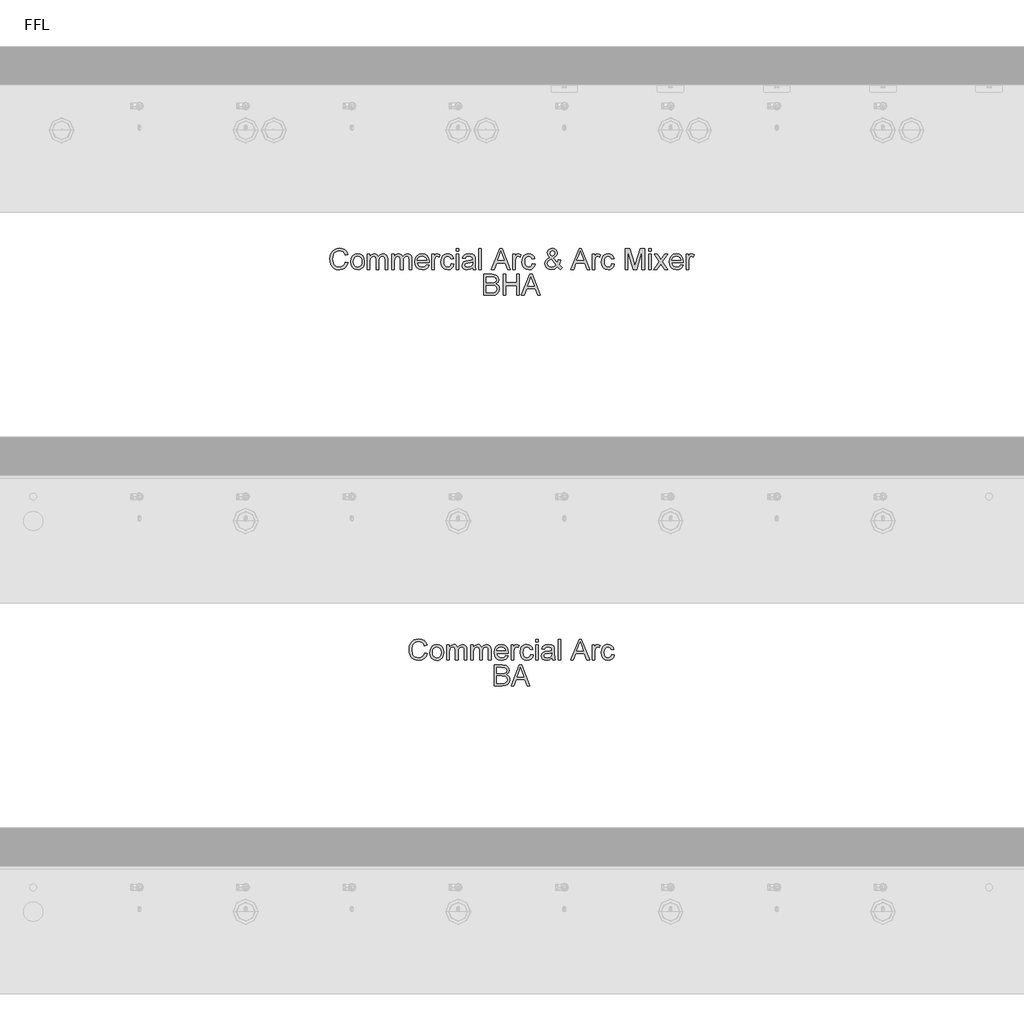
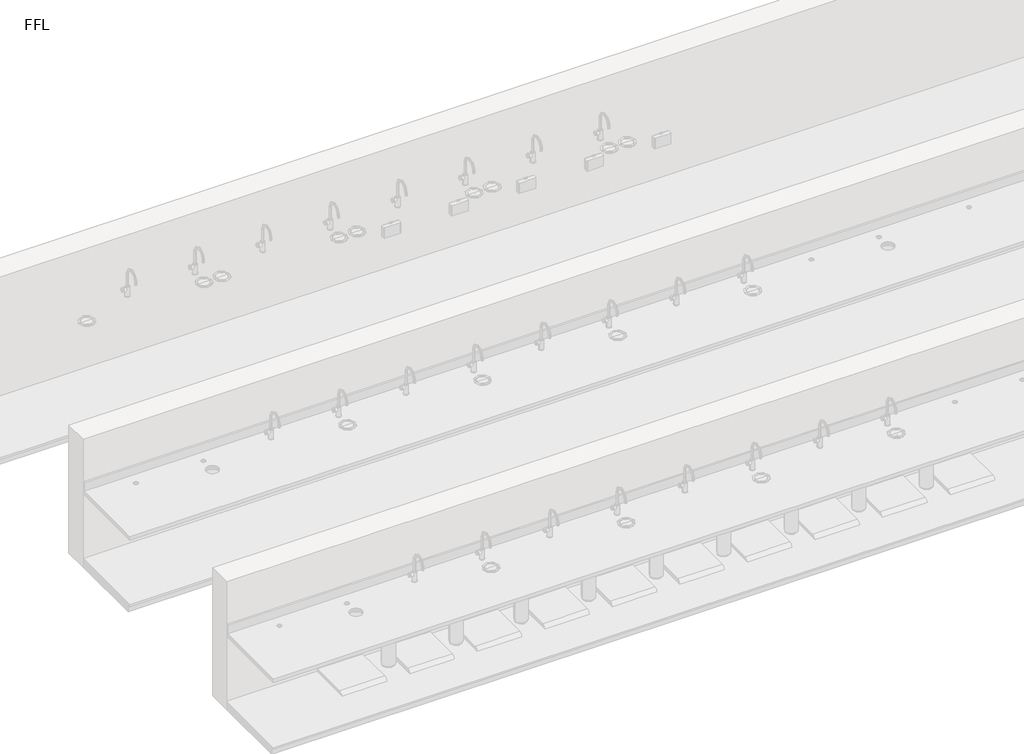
# One storey, part 8 of 10: 2 proxies.
"""IFC4 building model written with IfcOpenShell, lengths in millimetres."""

from ifc_helpers import new_model, si_unit, origin, origin_with_axes, place, context, project, spatial, polyline, outline, extrude, element, save

model = new_model("IFC4")

# Units and contexts
model_context = context("Model", 3, world=origin())
ifc_project = project(units=[si_unit("LENGTHUNIT", "METRE", prefix="MILLI")], contexts=[model_context])

# Site, building, storey
site = spatial("IfcSite", under=ifc_project)
building = spatial("IfcBuilding", under=site)
storey = spatial("IfcBuildingStorey", under=building, Name="FFL", Elevation=0.0)

# Proxies
placement = place(None, origin())
element("IfcBuildingElementProxy", 1, Name="150mm Arial", ObjectType="150mm Arial", at=placement, inside=storey, context=model_context, shape_type="SweptSolid", body=[
    extrude(outline(polyline([(-3514.7352929, 3836.3018309), (-3496.2737544, 3831.5422155), (-3504.7923842, 3810.0292948), (-3518.1607736, 3794.3126482), (-3535.7208698, 3784.698766), (-3556.8146198, 3781.4941386), (-3578.2283818, 3783.9190184), (-3595.2340909, 3791.1936578), (-3608.2689467, 3803.065653), (-3617.7701486, 3819.2826001), (-3623.5709299, 3838.3481049), (-3625.5045236, 3858.7657732), (-3623.318526, 3880.3012299), (-3616.7605333, 3898.8979847), (-3606.1730934, 3913.9655929), (-3591.8987544, 3924.9136097), (-3574.9696679, 3931.5797756), (-3556.4179852, 3933.8018309), (-3536.1760982, 3930.9262299), (-3519.4408217, 3922.299427), (-3506.7349924, 3908.4532732), (-3498.5814467, 3889.9196193), (-3517.0429852, 3885.5205809), (-3523.4432256, 3898.9836217), (-3532.1872159, 3908.2188982), (-3543.3831294, 3913.5599439), (-3557.139139, 3915.3402924), (-3572.9955092, 3913.3661338), (-3586.0213506, 3907.4436578), (-3595.9056655, 3898.1948597), (-3602.3374563, 3886.2417347), (-3607.0429852, 3858.8018309), (-3601.4720717, 3826.9989463), (-3594.3506775, 3815.1224439), (-3584.1283217, 3806.6804367), (-3571.8732135, 3801.6368669), (-3558.6535621, 3799.955677), (-3543.2434059, 3802.2453405), (-3530.4023602, 3809.1143309), (-3520.7073482, 3820.4905328), (-3514.7352929, 3836.3018309)])), origin_with_axes(), (0.0, 0.0, 1.0), 5.0),
    extrude(outline(polyline([(-3477.8122159, 3838.0326001), (-3473.8188265, 3864.1834415), (-3461.8386583, 3882.5638501), (-3447.0369756, 3891.5692588), (-3429.3146198, 3894.5710617), (-3409.9200885, 3890.9157131), (-3394.4288025, 3879.9496674), (-3384.2740549, 3862.5383092), (-3380.889139, 3839.5470232), (-3382.3855333, 3820.8961818), (-3386.8747159, 3806.6984655), (-3394.225978, 3796.0659535), (-3404.3086102, 3788.1107251), (-3416.2842712, 3783.1482852), (-3429.3146198, 3781.4941386), (-3448.943526, 3785.1359655), (-3464.4167833, 3796.0614463), (-3474.4633578, 3813.8378886), (-3477.8122159, 3838.0326001)]), holes=[polyline([(-3459.3506775, 3838.0686578), (-3457.2142592, 3821.3604246), (-3450.8050044, 3809.456879), (-3441.1595717, 3802.3309775), (-3429.3146198, 3799.955677), (-3417.5237544, 3802.3444992), (-3407.8963506, 3809.5109655), (-3401.4870958, 3821.5722636), (-3399.3506775, 3838.6455809), (-3401.5006174, 3854.8670352), (-3407.9504371, 3866.6083213), (-3417.5913626, 3873.7342227), (-3429.3146198, 3876.1095232), (-3441.1595717, 3873.7432371), (-3450.8050044, 3866.644379), (-3457.2142592, 3854.7678766), (-3459.3506775, 3838.0686578)])]), origin_with_axes(), (0.0, 0.0, 1.0), 5.0),
    extrude(outline(polyline([(-3360.1199083, 3783.8018309), (-3360.1199083, 3892.2633693), (-3341.6583698, 3892.2633693), (-3341.6583698, 3874.4148117), (-3328.9660621, 3889.0362059), (-3310.9011583, 3894.5710617), (-3300.6337304, 3893.1603044), (-3292.4035621, 3888.9280328), (-3282.2352929, 3873.1167347), (-3267.8302448, 3889.2074799), (-3249.639139, 3894.5710617), (-3235.7614347, 3892.3399919), (-3225.498514, 3885.6467828), (-3219.1568674, 3874.3111458), (-3217.0429852, 3858.1527924), (-3217.0429852, 3783.8018309), (-3235.5045236, 3783.8018309), (-3235.5045236, 3850.2201001), (-3237.217264, 3865.6347636), (-3243.4191871, 3873.2249078), (-3253.9660621, 3876.1095232), (-3263.9675645, 3874.2615665), (-3272.1211102, 3868.7176963), (-3277.5432857, 3859.0993068), (-3279.3506775, 3845.0277924), (-3279.3506775, 3783.8018309), (-3297.8122159, 3783.8018309), (-3297.8122159, 3852.2753886), (-3302.0850525, 3870.160004), (-3307.7235741, 3874.6221434), (-3316.0934659, 3876.1095232), (-3329.7593313, 3872.143177), (-3338.8458698, 3860.5326001), (-3341.6583698, 3838.5013501), (-3341.6583698, 3783.8018309), (-3360.1199083, 3783.8018309)])), origin_with_axes(), (0.0, 0.0, 1.0), 5.0),
    extrude(outline(polyline([(-3189.3506775, 3783.8018309), (-3189.3506775, 3892.2633693), (-3170.889139, 3892.2633693), (-3170.889139, 3874.4148117), (-3158.1968313, 3889.0362059), (-3140.1319275, 3894.5710617), (-3129.8644996, 3893.1603044), (-3121.6343313, 3888.9280328), (-3111.4660621, 3873.1167347), (-3097.061014, 3889.2074799), (-3078.8699083, 3894.5710617), (-3064.9922039, 3892.3399919), (-3054.7292833, 3885.6467828), (-3048.3876366, 3874.3111458), (-3046.2737544, 3858.1527924), (-3046.2737544, 3783.8018309), (-3064.7352929, 3783.8018309), (-3064.7352929, 3850.2201001), (-3066.4480333, 3865.6347636), (-3072.6499563, 3873.2249078), (-3083.1968313, 3876.1095232), (-3093.1983337, 3874.2615665), (-3101.3518794, 3868.7176963), (-3106.7740549, 3859.0993068), (-3108.5814467, 3845.0277924), (-3108.5814467, 3783.8018309), (-3127.0429852, 3783.8018309), (-3127.0429852, 3852.2753886), (-3131.3158217, 3870.160004), (-3136.9543434, 3874.6221434), (-3145.3242352, 3876.1095232), (-3158.9901006, 3872.143177), (-3168.076639, 3860.5326001), (-3170.889139, 3838.5013501), (-3170.889139, 3783.8018309), (-3189.3506775, 3783.8018309)])), origin_with_axes(), (0.0, 0.0, 1.0), 5.0),
    extrude(outline(polyline([(-2942.6439467, 3816.1095232), (-2924.5429852, 3813.8018309), (-2931.0649203, 3800.1630088), (-2941.4720717, 3789.9676963), (-2955.5300645, 3783.612528), (-2973.0045236, 3781.4941386), (-2994.6661823, 3785.1494871), (-3011.3338506, 3796.1155328), (-3021.9618554, 3813.6801362), (-3025.5045236, 3837.1311578), (-3021.9257977, 3861.3709415), (-3011.1896198, 3879.4989463), (-2994.7473121, 3890.8030328), (-2974.0501967, 3894.5710617), (-2953.9976126, 3890.8120472), (-2937.9744756, 3879.535004), (-2927.4681655, 3861.4430568), (-2923.9660621, 3837.2393309), (-2924.0742352, 3832.2633693), (-3007.0429852, 3832.2633693), (-3003.8473722, 3818.4442588), (-2996.4239948, 3808.285004), (-2985.710353, 3802.0380088), (-2972.6439467, 3799.955677), (-2954.5429852, 3803.8138501), (-2942.6439467, 3816.1095232)]), holes=[polyline([(-3007.0429852, 3850.7249078), (-2942.4276006, 3850.7249078), (-2944.9245958, 3860.4785136), (-2949.8194275, 3867.455677), (-2960.5826486, 3873.9460617), (-2974.1223121, 3876.1095232), (-2986.5667232, 3874.3832612), (-2996.8566871, 3869.2044751), (-3004.0096318, 3861.1320592), (-3007.0429852, 3850.7249078)])]), origin_with_axes(), (0.0, 0.0, 1.0), 5.0),
    extrude(outline(polyline([(-2905.5045236, 3783.8018309), (-2905.5045236, 3892.2633693), (-2889.3506775, 3892.2633693), (-2889.3506775, 3876.2176963), (-2877.8843313, 3891.0013501), (-2866.3458698, 3894.5710617), (-2847.8122159, 3888.8739463), (-2853.9780813, 3872.3234655), (-2866.9588506, 3876.1095232), (-2877.3975525, 3872.4676963), (-2884.0501967, 3862.3715424), (-2887.0429852, 3840.8090424), (-2887.0429852, 3783.8018309), (-2905.5045236, 3783.8018309)])), origin_with_axes(), (0.0, 0.0, 1.0), 5.0),
    extrude(outline(polyline([(-2767.0429852, 3823.0326001), (-2748.5814467, 3820.7249078), (-2753.7286823, 3804.3051362), (-2763.4011583, 3791.8967828), (-2776.6884179, 3784.0947996), (-2792.6800044, 3781.4941386), (-2812.3179251, 3785.1224439), (-2827.6739948, 3796.0073597), (-2837.585353, 3813.6711217), (-2840.889139, 3837.6359655), (-2835.2461102, 3868.3030328), (-2828.1247159, 3879.8009294), (-2818.0465909, 3888.0085617), (-2805.9898001, 3892.9304367), (-2792.9324083, 3894.5710617), (-2777.3329491, 3892.3174559), (-2764.8614948, 3885.5566386), (-2755.9146799, 3874.6491867), (-2750.889139, 3859.955677), (-2769.3506775, 3857.6479847), (-2777.9143794, 3871.4761097), (-2792.7881775, 3876.1095232), (-2804.7187664, 3873.8288742), (-2814.1884179, 3866.986927), (-2820.3678049, 3855.2140905), (-2822.4276006, 3838.1407732), (-2820.412877, 3820.8375881), (-2814.3687063, 3809.0241867), (-2805.0703289, 3802.2228044), (-2793.2929852, 3799.955677), (-2783.7331895, 3801.3709415), (-2775.8951486, 3805.6167347), (-2770.193526, 3812.8012299), (-2767.0429852, 3823.0326001)])), origin_with_axes(), (0.0, 0.0, 1.0), 5.0),
    extrude(outline(polyline([(-2732.4276006, 3913.0326001), (-2732.4276006, 3931.4941386), (-2713.9660621, 3931.4941386), (-2713.9660621, 3913.0326001), (-2732.4276006, 3913.0326001)])), origin_with_axes(), (0.0, 0.0, 1.0), 5.0),
    extrude(outline(polyline([(-2732.4276006, 3783.8018309), (-2732.4276006, 3892.2633693), (-2713.9660621, 3892.2633693), (-2713.9660621, 3783.8018309), (-2732.4276006, 3783.8018309)])), origin_with_axes(), (0.0, 0.0, 1.0), 5.0),
    extrude(outline(polyline([(-2617.0429852, 3797.6479847), (-2634.9456294, 3785.1359655), (-2654.7232736, 3781.4941386), (-2670.1514587, 3783.6846434), (-2681.5321679, 3790.2561578), (-2688.5498962, 3800.2351242), (-2690.889139, 3812.6479847), (-2687.3554852, 3827.2513501), (-2678.0706294, 3837.8523117), (-2665.1439467, 3843.910004), (-2649.170389, 3846.6864463), (-2617.1511583, 3853.0326001), (-2617.0429852, 3857.143177), (-2618.3140188, 3865.3823597), (-2622.1271198, 3870.7729847), (-2630.654764, 3874.7753886), (-2642.5357736, 3876.1095232), (-2661.2136583, 3872.5578405), (-2670.1199083, 3859.955677), (-2688.5814467, 3862.2633693), (-2680.5946679, 3880.2922155), (-2664.5129371, 3890.8571193), (-2640.1559659, 3894.5710617), (-2617.7821679, 3891.2898117), (-2605.1439467, 3883.050629), (-2599.482889, 3870.5205809), (-2598.5814467, 3854.3667347), (-2598.5814467, 3831.3979847), (-2597.6439467, 3799.3246674), (-2593.9660621, 3783.8018309), (-2612.4276006, 3783.8018309), (-2617.0429852, 3797.6479847)]), holes=[polyline([(-2617.0429852, 3834.5710617), (-2646.826639, 3828.910004), (-2662.7100525, 3825.9172155), (-2669.9035621, 3821.049427), (-2672.4276006, 3813.9460617), (-2666.9288025, 3803.9580809), (-2650.7929852, 3799.955677), (-2632.1151006, 3804.3727443), (-2620.0718313, 3815.0638501), (-2617.1511583, 3829.3426963), (-2617.0429852, 3834.5710617)])]), origin_with_axes(), (0.0, 0.0, 1.0), 5.0),
    extrude(outline(polyline([(-2573.1968313, 3783.8018309), (-2573.1968313, 3931.4941386), (-2554.7352929, 3931.4941386), (-2554.7352929, 3783.8018309), (-2573.1968313, 3783.8018309)])), origin_with_axes(), (0.0, 0.0, 1.0), 5.0),
    extrude(outline(polyline([(-2484.2425044, 3783.8018309), (-2425.2881775, 3931.4941386), (-2409.5670236, 3931.4941386), (-2350.6126967, 3783.8018309), (-2370.1199083, 3783.8018309), (-2387.0309659, 3829.955677), (-2447.8602929, 3829.955677), (-2464.7352929, 3783.8018309), (-2484.2425044, 3783.8018309)]), holes=[polyline([(-2441.0814467, 3848.4172155), (-2393.7737544, 3848.4172155), (-2407.0790429, 3884.7273117), (-2417.4276006, 3913.0326001), (-2426.6223121, 3887.9003886), (-2441.0814467, 3848.4172155)])]), origin_with_axes(), (0.0, 0.0, 1.0), 5.0),
    extrude(outline(polyline([(-2333.1968313, 3783.8018309), (-2333.1968313, 3892.2633693), (-2317.0429852, 3892.2633693), (-2317.0429852, 3876.2176963), (-2305.576639, 3891.0013501), (-2294.0381775, 3894.5710617), (-2275.5045236, 3888.8739463), (-2281.670389, 3872.3234655), (-2294.6511583, 3876.1095232), (-2305.0898602, 3872.4676963), (-2311.7425044, 3862.3715424), (-2314.7352929, 3840.8090424), (-2314.7352929, 3783.8018309), (-2333.1968313, 3783.8018309)])), origin_with_axes(), (0.0, 0.0, 1.0), 5.0),
    extrude(outline(polyline([(-2194.7352929, 3823.0326001), (-2176.2737544, 3820.7249078), (-2181.42099, 3804.3051362), (-2191.0934659, 3791.8967828), (-2204.3807256, 3784.0947996), (-2220.3723121, 3781.4941386), (-2240.0102328, 3785.1224439), (-2255.3663025, 3796.0073597), (-2265.2776607, 3813.6711217), (-2268.5814467, 3837.6359655), (-2262.9384179, 3868.3030328), (-2255.8170236, 3879.8009294), (-2245.7388986, 3888.0085617), (-2233.6821078, 3892.9304367), (-2220.6247159, 3894.5710617), (-2205.0252568, 3892.3174559), (-2192.5538025, 3885.5566386), (-2183.6069876, 3874.6491867), (-2178.5814467, 3859.955677), (-2197.0429852, 3857.6479847), (-2205.6066871, 3871.4761097), (-2220.4804852, 3876.1095232), (-2232.4110741, 3873.8288742), (-2241.8807256, 3866.986927), (-2248.0601126, 3855.2140905), (-2250.1199083, 3838.1407732), (-2248.1051847, 3820.8375881), (-2242.061014, 3809.0241867), (-2232.7626366, 3802.2228044), (-2220.9852929, 3799.955677), (-2211.4254972, 3801.3709415), (-2203.5874563, 3805.6167347), (-2197.8858337, 3812.8012299), (-2194.7352929, 3823.0326001)])), origin_with_axes(), (0.0, 0.0, 1.0), 5.0),
    extrude(outline(polyline([(-2017.7280813, 3802.0470232), (-2037.3074083, 3786.6323597), (-2060.2040429, 3781.4941386), (-2080.576639, 3785.2982251), (-2096.2617352, 3796.7104847), (-2104.3476727, 3809.8444992), (-2107.0429852, 3824.4388501), (-2104.8750164, 3837.3745472), (-2098.3711102, 3848.9941386), (-2087.5583097, 3859.2886097), (-2072.4636583, 3868.2489463), (-2085.3542833, 3886.9268309), (-2088.5814467, 3900.7729847), (-2086.0393794, 3913.2399318), (-2078.4131775, 3923.9580809), (-2066.9378169, 3931.3408934), (-2052.8482736, 3933.8018309), (-2039.4438265, 3931.4490665), (-2028.7256775, 3924.3907732), (-2021.6944275, 3914.0332011), (-2019.3506775, 3901.7826001), (-2021.0859539, 3891.4971434), (-2026.2917833, 3881.986927), (-2047.1151006, 3865.2922155), (-2020.3963506, 3832.0109655), (-2012.4276006, 3852.455677), (-1993.9660621, 3848.4532732), (-2007.0189467, 3818.0566386), (-1984.7352929, 3795.7008693), (-1998.5814467, 3781.4941386), (-2017.7280813, 3802.0470232)]), holes=[polyline([(-2056.4540429, 3876.9388501), (-2041.2737544, 3888.3871674), (-2037.8122159, 3899.2585617), (-2042.373514, 3910.8511097), (-2053.7857736, 3915.3402924), (-2065.4504371, 3910.8871674), (-2070.1199083, 3900.0157732), (-2068.5333698, 3893.2549559), (-2063.7376967, 3885.736927), (-2056.4540429, 3876.9388501)]), polyline([(-2030.0958698, 3815.3523117), (-2063.0526006, 3856.4941386), (-2083.3350525, 3841.0253886), (-2088.5814467, 3826.8907732), (-2086.7875765, 3818.1828405), (-2081.4059659, 3809.1503886), (-2072.7340909, 3802.2543549), (-2061.0694275, 3799.955677), (-2044.1042833, 3804.2465424), (-2030.0958698, 3815.3523117)])]), origin_with_axes(), (0.0, 0.0, 1.0), 5.0),
    extrude(outline(polyline([(-1923.4732736, 3783.8018309), (-1864.5189467, 3931.4941386), (-1848.7977929, 3931.4941386), (-1789.8434659, 3783.8018309), (-1809.3506775, 3783.8018309), (-1826.2617352, 3829.955677), (-1887.0910621, 3829.955677), (-1903.9660621, 3783.8018309), (-1923.4732736, 3783.8018309)]), holes=[polyline([(-1880.3122159, 3848.4172155), (-1833.0045236, 3848.4172155), (-1846.3098121, 3884.7273117), (-1856.6583698, 3913.0326001), (-1865.8530813, 3887.9003886), (-1880.3122159, 3848.4172155)])]), origin_with_axes(), (0.0, 0.0, 1.0), 5.0),
    extrude(outline(polyline([(-1772.4276006, 3783.8018309), (-1772.4276006, 3892.2633693), (-1756.2737544, 3892.2633693), (-1756.2737544, 3876.2176963), (-1744.8074083, 3891.0013501), (-1733.2689467, 3894.5710617), (-1714.7352929, 3888.8739463), (-1720.9011583, 3872.3234655), (-1733.8819275, 3876.1095232), (-1744.3206294, 3872.4676963), (-1750.9732736, 3862.3715424), (-1753.9660621, 3840.8090424), (-1753.9660621, 3783.8018309), (-1772.4276006, 3783.8018309)])), origin_with_axes(), (0.0, 0.0, 1.0), 5.0),
    extrude(outline(polyline([(-1633.9660621, 3823.0326001), (-1615.5045236, 3820.7249078), (-1620.6517592, 3804.3051362), (-1630.3242352, 3791.8967828), (-1643.6114948, 3784.0947996), (-1659.6030813, 3781.4941386), (-1679.241002, 3785.1224439), (-1694.5970717, 3796.0073597), (-1704.5084299, 3813.6711217), (-1707.8122159, 3837.6359655), (-1702.1691871, 3868.3030328), (-1695.0477929, 3879.8009294), (-1684.9696679, 3888.0085617), (-1672.912877, 3892.9304367), (-1659.8554852, 3894.5710617), (-1644.256026, 3892.3174559), (-1631.7845717, 3885.5566386), (-1622.8377568, 3874.6491867), (-1617.8122159, 3859.955677), (-1636.2737544, 3857.6479847), (-1644.8374563, 3871.4761097), (-1659.7112544, 3876.1095232), (-1671.6418434, 3873.8288742), (-1681.1114948, 3866.986927), (-1687.2908818, 3855.2140905), (-1689.3506775, 3838.1407732), (-1687.3359539, 3820.8375881), (-1681.2917833, 3809.0241867), (-1671.9934059, 3802.2228044), (-1660.2160621, 3799.955677), (-1650.6562664, 3801.3709415), (-1642.8182256, 3805.6167347), (-1637.116603, 3812.8012299), (-1633.9660621, 3823.0326001)])), origin_with_axes(), (0.0, 0.0, 1.0), 5.0),
    extrude(outline(polyline([(-1539.3506775, 3783.8018309), (-1539.3506775, 3931.4941386), (-1507.5838506, 3931.4941386), (-1477.3675044, 3827.3955809), (-1471.2737544, 3805.6527924), (-1464.6751967, 3829.1984655), (-1434.9636583, 3931.4941386), (-1403.1968313, 3931.4941386), (-1403.1968313, 3783.8018309), (-1421.6583698, 3783.8018309), (-1421.6583698, 3913.0326001), (-1458.7617352, 3783.8018309), (-1483.7857736, 3783.8018309), (-1520.889139, 3913.0326001), (-1520.889139, 3783.8018309), (-1539.3506775, 3783.8018309)])), origin_with_axes(), (0.0, 0.0, 1.0), 5.0),
    extrude(outline(polyline([(-1373.1968313, 3783.8018309), (-1373.1968313, 3892.2633693), (-1354.7352929, 3892.2633693), (-1354.7352929, 3783.8018309), (-1373.1968313, 3783.8018309)])), origin_with_axes(), (0.0, 0.0, 1.0), 5.0),
    extrude(outline(polyline([(-1373.1968313, 3913.0326001), (-1373.1968313, 3931.4941386), (-1354.7352929, 3931.4941386), (-1354.7352929, 3913.0326001), (-1373.1968313, 3913.0326001)])), origin_with_axes(), (0.0, 0.0, 1.0), 5.0),
    extrude(outline(polyline([(-1338.5814467, 3783.8018309), (-1299.1343313, 3838.3210617), (-1336.2737544, 3892.2633693), (-1314.0622159, 3892.2633693), (-1296.1415429, 3866.3018309), (-1287.7761583, 3854.0422155), (-1280.5285621, 3864.066254), (-1260.1199083, 3892.2633693), (-1237.9083698, 3892.2633693), (-1276.9227929, 3838.3210617), (-1239.3506775, 3783.8018309), (-1261.5622159, 3783.8018309), (-1284.170389, 3816.5782732), (-1288.3170236, 3822.5638501), (-1316.3699083, 3783.8018309), (-1338.5814467, 3783.8018309)])), origin_with_axes(), (0.0, 0.0, 1.0), 5.0),
    extrude(outline(polyline([(-1147.2593313, 3816.1095232), (-1129.1583698, 3813.8018309), (-1135.6803049, 3800.1630088), (-1146.0874563, 3789.9676963), (-1160.1454491, 3783.612528), (-1177.6199083, 3781.4941386), (-1199.2815669, 3785.1494871), (-1215.9492352, 3796.1155328), (-1226.57724, 3813.6801362), (-1230.1199083, 3837.1311578), (-1226.5411823, 3861.3709415), (-1215.8050044, 3879.4989463), (-1199.3626967, 3890.8030328), (-1178.6655813, 3894.5710617), (-1158.6129972, 3890.8120472), (-1142.5898602, 3879.535004), (-1132.0835501, 3861.4430568), (-1128.5814467, 3837.2393309), (-1128.6896198, 3832.2633693), (-1211.6583698, 3832.2633693), (-1208.4627568, 3818.4442588), (-1201.0393794, 3808.285004), (-1190.3257376, 3802.0380088), (-1177.2593313, 3799.955677), (-1159.1583698, 3803.8138501), (-1147.2593313, 3816.1095232)]), holes=[polyline([(-1211.6583698, 3850.7249078), (-1147.0429852, 3850.7249078), (-1149.5399804, 3860.4785136), (-1154.4348121, 3867.455677), (-1165.1980333, 3873.9460617), (-1178.7376967, 3876.1095232), (-1191.1821078, 3874.3832612), (-1201.4720717, 3869.2044751), (-1208.6250164, 3861.1320592), (-1211.6583698, 3850.7249078)])]), origin_with_axes(), (0.0, 0.0, 1.0), 5.0),
    extrude(outline(polyline([(-1110.1199083, 3783.8018309), (-1110.1199083, 3892.2633693), (-1093.9660621, 3892.2633693), (-1093.9660621, 3876.2176963), (-1082.4997159, 3891.0013501), (-1070.9612544, 3894.5710617), (-1052.4276006, 3888.8739463), (-1058.5934659, 3872.3234655), (-1071.5742352, 3876.1095232), (-1082.0129371, 3872.4676963), (-1088.6655813, 3862.3715424), (-1091.6583698, 3840.8090424), (-1091.6583698, 3783.8018309), (-1110.1199083, 3783.8018309)])), origin_with_axes(), (0.0, 0.0, 1.0), 5.0),
    extrude(outline(polyline([(-2538.5814467, 3601.4941386), (-2538.5814467, 3749.1864463), (-2482.2232736, 3749.1864463), (-2454.6211102, 3744.8414943), (-2445.3452688, 3739.3291746), (-2438.3230333, 3731.4821193), (-2432.4276006, 3712.5878886), (-2437.3855333, 3695.3342828), (-2452.3675044, 3682.2633693), (-2441.9062664, 3676.800629), (-2434.1763986, 3668.4893309), (-2429.4032616, 3657.8793549), (-2427.8122159, 3645.5205809), (-2432.1571679, 3625.6708213), (-2442.920389, 3611.5362059), (-2458.9840909, 3604.0362059), (-2482.6559659, 3601.4941386), (-2538.5814467, 3601.4941386)]), holes=[polyline([(-2520.1199083, 3619.955677), (-2482.2593313, 3619.955677), (-2468.5574083, 3620.6768309), (-2456.9648602, 3624.6972636), (-2449.2845717, 3632.9003886), (-2446.2737544, 3645.3402924), (-2449.8074083, 3659.691254), (-2461.2557256, 3668.2549559), (-2484.0622159, 3670.7249078), (-2520.1199083, 3670.7249078), (-2520.1199083, 3619.955677)]), polyline([(-2520.1199083, 3689.1864463), (-2486.4059659, 3689.1864463), (-2466.7184659, 3690.7729847), (-2454.873514, 3697.6059174), (-2450.889139, 3709.6311578), (-2454.6030813, 3721.674427), (-2465.2401006, 3728.7958213), (-2488.9660621, 3730.7249078), (-2520.1199083, 3730.7249078), (-2520.1199083, 3689.1864463)])]), origin_with_axes(), (0.0, 0.0, 1.0), 5.0),
    extrude(outline(polyline([(-2402.4276006, 3601.4941386), (-2402.4276006, 3749.1864463), (-2383.9660621, 3749.1864463), (-2383.9660621, 3689.1864463), (-2305.5045236, 3689.1864463), (-2305.5045236, 3749.1864463), (-2287.0429852, 3749.1864463), (-2287.0429852, 3601.4941386), (-2305.5045236, 3601.4941386), (-2305.5045236, 3670.7249078), (-2383.9660621, 3670.7249078), (-2383.9660621, 3601.4941386), (-2402.4276006, 3601.4941386)])), origin_with_axes(), (0.0, 0.0, 1.0), 5.0),
    extrude(outline(polyline([(-2271.9348121, 3601.4941386), (-2212.9804852, 3749.1864463), (-2197.2593313, 3749.1864463), (-2138.3050044, 3601.4941386), (-2157.8122159, 3601.4941386), (-2174.7232736, 3647.6479847), (-2235.5526006, 3647.6479847), (-2252.4276006, 3601.4941386), (-2271.9348121, 3601.4941386)]), holes=[polyline([(-2228.7737544, 3666.1095232), (-2181.4660621, 3666.1095232), (-2194.7713506, 3702.4196193), (-2205.1199083, 3730.7249078), (-2214.3146198, 3705.5926963), (-2228.7737544, 3666.1095232)])]), origin_with_axes(), (0.0, 0.0, 1.0), 5.0),
])
element("IfcBuildingElementProxy", 2, Name="150mm Arial", ObjectType="150mm Arial", at=placement, inside=storey, context=model_context, shape_type="SweptSolid", body=[
    extrude(outline(polyline([(-2955.1199083, 1076.3018309), (-2936.6583698, 1071.5422155), (-2945.1769996, 1050.0292948), (-2958.545389, 1034.3126482), (-2976.1054852, 1024.698766), (-2997.1992352, 1021.4941386), (-3018.6129972, 1023.9190184), (-3035.6187063, 1031.1936578), (-3048.6535621, 1043.065653), (-3058.154764, 1059.2826001), (-3063.9555453, 1078.3481049), (-3065.889139, 1098.7657732), (-3063.7031414, 1120.3012299), (-3057.1451486, 1138.8979847), (-3046.5577087, 1153.9655929), (-3032.2833698, 1164.9136097), (-3015.3542833, 1171.5797756), (-2996.8026006, 1173.8018309), (-2976.5607135, 1170.9262299), (-2959.8254371, 1162.299427), (-2947.1196078, 1148.4532732), (-2938.9660621, 1129.9196193), (-2957.4276006, 1125.5205809), (-2963.8278409, 1138.9836217), (-2972.5718313, 1148.2188982), (-2983.7677448, 1153.5599439), (-2997.5237544, 1155.3402924), (-3013.3801246, 1153.3661338), (-3026.4059659, 1147.4436578), (-3036.2902809, 1138.1948597), (-3042.7220717, 1126.2417347), (-3047.4276006, 1098.8018309), (-3041.8566871, 1066.9989463), (-3034.7352929, 1055.1224439), (-3024.5129371, 1046.6804367), (-3012.2578289, 1041.6368669), (-2999.0381775, 1039.955677), (-2983.6280212, 1042.2453405), (-2970.7869756, 1049.1143309), (-2961.0919635, 1060.4905328), (-2955.1199083, 1076.3018309)])), origin_with_axes(), (0.0, 0.0, 1.0), 5.0),
    extrude(outline(polyline([(-2918.1968313, 1078.0326001), (-2914.2034419, 1104.1834415), (-2902.2232736, 1122.5638501), (-2887.4215909, 1131.5692588), (-2869.6992352, 1134.5710617), (-2850.3047039, 1130.9157131), (-2834.8134179, 1119.9496674), (-2824.6586703, 1102.5383092), (-2821.2737544, 1079.5470232), (-2822.7701486, 1060.8961818), (-2827.2593313, 1046.6984655), (-2834.6105934, 1036.0659535), (-2844.6932256, 1028.1107251), (-2856.6688866, 1023.1482852), (-2869.6992352, 1021.4941386), (-2889.3281414, 1025.1359655), (-2904.8013986, 1036.0614463), (-2914.8479732, 1053.8378886), (-2918.1968313, 1078.0326001)]), holes=[polyline([(-2899.7352929, 1078.0686578), (-2897.5988746, 1061.3604246), (-2891.1896198, 1049.456879), (-2881.5441871, 1042.3309775), (-2869.6992352, 1039.955677), (-2857.9083698, 1042.3444992), (-2848.2809659, 1049.5109655), (-2841.8717111, 1061.5722636), (-2839.7352929, 1078.6455809), (-2841.8852328, 1094.8670352), (-2848.3350525, 1106.6083213), (-2857.975978, 1113.7342227), (-2869.6992352, 1116.1095232), (-2881.5441871, 1113.7432371), (-2891.1896198, 1106.644379), (-2897.5988746, 1094.7678766), (-2899.7352929, 1078.0686578)])]), origin_with_axes(), (0.0, 0.0, 1.0), 5.0),
    extrude(outline(polyline([(-2800.5045236, 1023.8018309), (-2800.5045236, 1132.2633693), (-2782.0429852, 1132.2633693), (-2782.0429852, 1114.4148117), (-2769.3506775, 1129.0362059), (-2751.2857736, 1134.5710617), (-2741.0183458, 1133.1603044), (-2732.7881775, 1128.9280328), (-2722.6199083, 1113.1167347), (-2708.2148602, 1129.2074799), (-2690.0237544, 1134.5710617), (-2676.1460501, 1132.3399919), (-2665.8831294, 1125.6467828), (-2659.5414828, 1114.3111458), (-2657.4276006, 1098.1527924), (-2657.4276006, 1023.8018309), (-2675.889139, 1023.8018309), (-2675.889139, 1090.2201001), (-2677.6018794, 1105.6347636), (-2683.8038025, 1113.2249078), (-2694.3506775, 1116.1095232), (-2704.3521799, 1114.2615665), (-2712.5057256, 1108.7176963), (-2717.927901, 1099.0993068), (-2719.7352929, 1085.0277924), (-2719.7352929, 1023.8018309), (-2738.1968313, 1023.8018309), (-2738.1968313, 1092.2753886), (-2742.4696679, 1110.160004), (-2748.1081895, 1114.6221434), (-2756.4780813, 1116.1095232), (-2770.1439467, 1112.143177), (-2779.2304852, 1100.5326001), (-2782.0429852, 1078.5013501), (-2782.0429852, 1023.8018309), (-2800.5045236, 1023.8018309)])), origin_with_axes(), (0.0, 0.0, 1.0), 5.0),
    extrude(outline(polyline([(-2629.7352929, 1023.8018309), (-2629.7352929, 1132.2633693), (-2611.2737544, 1132.2633693), (-2611.2737544, 1114.4148117), (-2598.5814467, 1129.0362059), (-2580.5165429, 1134.5710617), (-2570.249115, 1133.1603044), (-2562.0189467, 1128.9280328), (-2551.8506775, 1113.1167347), (-2537.4456294, 1129.2074799), (-2519.2545236, 1134.5710617), (-2505.3768193, 1132.3399919), (-2495.1138986, 1125.6467828), (-2488.772252, 1114.3111458), (-2486.6583698, 1098.1527924), (-2486.6583698, 1023.8018309), (-2505.1199083, 1023.8018309), (-2505.1199083, 1090.2201001), (-2506.8326486, 1105.6347636), (-2513.0345717, 1113.2249078), (-2523.5814467, 1116.1095232), (-2533.5829491, 1114.2615665), (-2541.7364948, 1108.7176963), (-2547.1586703, 1099.0993068), (-2548.9660621, 1085.0277924), (-2548.9660621, 1023.8018309), (-2567.4276006, 1023.8018309), (-2567.4276006, 1092.2753886), (-2571.7004371, 1110.160004), (-2577.3389587, 1114.6221434), (-2585.7088506, 1116.1095232), (-2599.3747159, 1112.143177), (-2608.4612544, 1100.5326001), (-2611.2737544, 1078.5013501), (-2611.2737544, 1023.8018309), (-2629.7352929, 1023.8018309)])), origin_with_axes(), (0.0, 0.0, 1.0), 5.0),
    extrude(outline(polyline([(-2383.0285621, 1056.1095232), (-2364.9276006, 1053.8018309), (-2371.4495357, 1040.1630088), (-2381.8566871, 1029.9676963), (-2395.9146799, 1023.612528), (-2413.389139, 1021.4941386), (-2435.0507977, 1025.1494871), (-2451.7184659, 1036.1155328), (-2462.3464708, 1053.6801362), (-2465.889139, 1077.1311578), (-2462.3104131, 1101.3709415), (-2451.5742352, 1119.4989463), (-2435.1319275, 1130.8030328), (-2414.4348121, 1134.5710617), (-2394.382228, 1130.8120472), (-2378.3590909, 1119.535004), (-2367.8527809, 1101.4430568), (-2364.3506775, 1077.2393309), (-2364.4588506, 1072.2633693), (-2447.4276006, 1072.2633693), (-2444.2319876, 1058.4442588), (-2436.8086102, 1048.285004), (-2426.0949684, 1042.0380088), (-2413.0285621, 1039.955677), (-2394.9276006, 1043.8138501), (-2383.0285621, 1056.1095232)]), holes=[polyline([(-2447.4276006, 1090.7249078), (-2382.8122159, 1090.7249078), (-2385.3092111, 1100.4785136), (-2390.2040429, 1107.455677), (-2400.967264, 1113.9460617), (-2414.5069275, 1116.1095232), (-2426.9513385, 1114.3832612), (-2437.2413025, 1109.2044751), (-2444.3942472, 1101.1320592), (-2447.4276006, 1090.7249078)])]), origin_with_axes(), (0.0, 0.0, 1.0), 5.0),
    extrude(outline(polyline([(-2345.889139, 1023.8018309), (-2345.889139, 1132.2633693), (-2329.7352929, 1132.2633693), (-2329.7352929, 1116.2176963), (-2318.2689467, 1131.0013501), (-2306.7304852, 1134.5710617), (-2288.1968313, 1128.8739463), (-2294.3626967, 1112.3234655), (-2307.3434659, 1116.1095232), (-2317.7821679, 1112.4676963), (-2324.4348121, 1102.3715424), (-2327.4276006, 1080.8090424), (-2327.4276006, 1023.8018309), (-2345.889139, 1023.8018309)])), origin_with_axes(), (0.0, 0.0, 1.0), 5.0),
    extrude(outline(polyline([(-2207.4276006, 1063.0326001), (-2188.9660621, 1060.7249078), (-2194.1132977, 1044.3051362), (-2203.7857736, 1031.8967828), (-2217.0730333, 1024.0947996), (-2233.0646198, 1021.4941386), (-2252.7025405, 1025.1224439), (-2268.0586102, 1036.0073597), (-2277.9699684, 1053.6711217), (-2281.2737544, 1077.6359655), (-2275.6307256, 1108.3030328), (-2268.5093313, 1119.8009294), (-2258.4312063, 1128.0085617), (-2246.3744155, 1132.9304367), (-2233.3170236, 1134.5710617), (-2217.7175645, 1132.3174559), (-2205.2461102, 1125.5566386), (-2196.2992953, 1114.6491867), (-2191.2737544, 1099.955677), (-2209.7352929, 1097.6479847), (-2218.2989948, 1111.4761097), (-2233.1727929, 1116.1095232), (-2245.1033818, 1113.8288742), (-2254.5730333, 1106.986927), (-2260.7524203, 1095.2140905), (-2262.8122159, 1078.1407732), (-2260.7974924, 1060.8375881), (-2254.7533217, 1049.0241867), (-2245.4549443, 1042.2228044), (-2233.6776006, 1039.955677), (-2224.1178049, 1041.3709415), (-2216.279764, 1045.6167347), (-2210.5781414, 1052.8012299), (-2207.4276006, 1063.0326001)])), origin_with_axes(), (0.0, 0.0, 1.0), 5.0),
    extrude(outline(polyline([(-2172.8122159, 1153.0326001), (-2172.8122159, 1171.4941386), (-2154.3506775, 1171.4941386), (-2154.3506775, 1153.0326001), (-2172.8122159, 1153.0326001)])), origin_with_axes(), (0.0, 0.0, 1.0), 5.0),
    extrude(outline(polyline([(-2172.8122159, 1023.8018309), (-2172.8122159, 1132.2633693), (-2154.3506775, 1132.2633693), (-2154.3506775, 1023.8018309), (-2172.8122159, 1023.8018309)])), origin_with_axes(), (0.0, 0.0, 1.0), 5.0),
    extrude(outline(polyline([(-2057.4276006, 1037.6479847), (-2075.3302448, 1025.1359655), (-2095.107889, 1021.4941386), (-2110.5360741, 1023.6846434), (-2121.9167833, 1030.2561578), (-2128.9345116, 1040.2351242), (-2131.2737544, 1052.6479847), (-2127.7401006, 1067.2513501), (-2118.4552448, 1077.8523117), (-2105.5285621, 1083.910004), (-2089.5550044, 1086.6864463), (-2057.5357736, 1093.0326001), (-2057.4276006, 1097.143177), (-2058.6986342, 1105.3823597), (-2062.5117352, 1110.7729847), (-2071.0393794, 1114.7753886), (-2082.920389, 1116.1095232), (-2101.5982736, 1112.5578405), (-2110.5045236, 1099.955677), (-2128.9660621, 1102.2633693), (-2120.9792833, 1120.2922155), (-2104.8975525, 1130.8571193), (-2080.5405813, 1134.5710617), (-2058.1667833, 1131.2898117), (-2045.5285621, 1123.050629), (-2039.8675044, 1110.5205809), (-2038.9660621, 1094.3667347), (-2038.9660621, 1071.3979847), (-2038.0285621, 1039.3246674), (-2034.3506775, 1023.8018309), (-2052.8122159, 1023.8018309), (-2057.4276006, 1037.6479847)]), holes=[polyline([(-2057.4276006, 1074.5710617), (-2087.2112544, 1068.910004), (-2103.0946679, 1065.9172155), (-2110.2881775, 1061.049427), (-2112.8122159, 1053.9460617), (-2107.3134179, 1043.9580809), (-2091.1776006, 1039.955677), (-2072.4997159, 1044.3727443), (-2060.4564467, 1055.0638501), (-2057.5357736, 1069.3426963), (-2057.4276006, 1074.5710617)])]), origin_with_axes(), (0.0, 0.0, 1.0), 5.0),
    extrude(outline(polyline([(-2013.5814467, 1023.8018309), (-2013.5814467, 1171.4941386), (-1995.1199083, 1171.4941386), (-1995.1199083, 1023.8018309), (-2013.5814467, 1023.8018309)])), origin_with_axes(), (0.0, 0.0, 1.0), 5.0),
    extrude(outline(polyline([(-1924.6271198, 1023.8018309), (-1865.6727929, 1171.4941386), (-1849.951639, 1171.4941386), (-1790.9973121, 1023.8018309), (-1810.5045236, 1023.8018309), (-1827.4155813, 1069.955677), (-1888.2449083, 1069.955677), (-1905.1199083, 1023.8018309), (-1924.6271198, 1023.8018309)]), holes=[polyline([(-1881.4660621, 1088.4172155), (-1834.1583698, 1088.4172155), (-1847.4636583, 1124.7273117), (-1857.8122159, 1153.0326001), (-1867.0069275, 1127.9003886), (-1881.4660621, 1088.4172155)])]), origin_with_axes(), (0.0, 0.0, 1.0), 5.0),
    extrude(outline(polyline([(-1773.5814467, 1023.8018309), (-1773.5814467, 1132.2633693), (-1757.4276006, 1132.2633693), (-1757.4276006, 1116.2176963), (-1745.9612544, 1131.0013501), (-1734.4227929, 1134.5710617), (-1715.889139, 1128.8739463), (-1722.0550044, 1112.3234655), (-1735.0357736, 1116.1095232), (-1745.4744756, 1112.4676963), (-1752.1271198, 1102.3715424), (-1755.1199083, 1080.8090424), (-1755.1199083, 1023.8018309), (-1773.5814467, 1023.8018309)])), origin_with_axes(), (0.0, 0.0, 1.0), 5.0),
    extrude(outline(polyline([(-1635.1199083, 1063.0326001), (-1616.6583698, 1060.7249078), (-1621.8056054, 1044.3051362), (-1631.4780813, 1031.8967828), (-1644.7653409, 1024.0947996), (-1660.7569275, 1021.4941386), (-1680.3948482, 1025.1224439), (-1695.7509179, 1036.0073597), (-1705.662276, 1053.6711217), (-1708.9660621, 1077.6359655), (-1703.3230333, 1108.3030328), (-1696.201639, 1119.8009294), (-1686.123514, 1128.0085617), (-1674.0667232, 1132.9304367), (-1661.0093313, 1134.5710617), (-1645.4098722, 1132.3174559), (-1632.9384179, 1125.5566386), (-1623.991603, 1114.6491867), (-1618.9660621, 1099.955677), (-1637.4276006, 1097.6479847), (-1645.9913025, 1111.4761097), (-1660.8651006, 1116.1095232), (-1672.7956895, 1113.8288742), (-1682.2653409, 1106.986927), (-1688.444728, 1095.2140905), (-1690.5045236, 1078.1407732), (-1688.4898001, 1060.8375881), (-1682.4456294, 1049.0241867), (-1673.147252, 1042.2228044), (-1661.3699083, 1039.955677), (-1651.8101126, 1041.3709415), (-1643.9720717, 1045.6167347), (-1638.2704491, 1052.8012299), (-1635.1199083, 1063.0326001)])), origin_with_axes(), (0.0, 0.0, 1.0), 5.0),
    extrude(outline(polyline([(-2464.7352929, 841.4941386), (-2464.7352929, 989.1864463), (-2408.3771198, 989.1864463), (-2380.7749563, 984.8414943), (-2371.499115, 979.3291746), (-2364.4768794, 971.4821193), (-2358.5814467, 952.5878886), (-2363.5393794, 935.3342828), (-2378.5213506, 922.2633693), (-2368.0601126, 916.800629), (-2360.3302448, 908.4893309), (-2355.5571078, 897.8793549), (-2353.9660621, 885.5205809), (-2358.311014, 865.6708213), (-2369.0742352, 851.5362059), (-2385.1379371, 844.0362059), (-2408.8098121, 841.4941386), (-2464.7352929, 841.4941386)]), holes=[polyline([(-2446.2737544, 859.955677), (-2408.4131775, 859.955677), (-2394.7112544, 860.6768309), (-2383.1187063, 864.6972636), (-2375.4384179, 872.9003886), (-2372.4276006, 885.3402924), (-2375.9612544, 899.691254), (-2387.4095717, 908.2549559), (-2410.2160621, 910.7249078), (-2446.2737544, 910.7249078), (-2446.2737544, 859.955677)]), polyline([(-2446.2737544, 929.1864463), (-2412.5598121, 929.1864463), (-2392.8723121, 930.7729847), (-2381.0273602, 937.6059174), (-2377.0429852, 949.6311578), (-2380.7569275, 961.674427), (-2391.3939467, 968.7958213), (-2415.1199083, 970.7249078), (-2446.2737544, 970.7249078), (-2446.2737544, 929.1864463)])]), origin_with_axes(), (0.0, 0.0, 1.0), 5.0),
    extrude(outline(polyline([(-2345.7809659, 841.4941386), (-2286.826639, 989.1864463), (-2271.1054852, 989.1864463), (-2212.1511583, 841.4941386), (-2231.6583698, 841.4941386), (-2248.5694275, 887.6479847), (-2309.3987544, 887.6479847), (-2326.2737544, 841.4941386), (-2345.7809659, 841.4941386)]), holes=[polyline([(-2302.6199083, 906.1095232), (-2255.3122159, 906.1095232), (-2268.6175044, 942.4196193), (-2278.9660621, 970.7249078), (-2288.1607736, 945.5926963), (-2302.6199083, 906.1095232)])]), origin_with_axes(), (0.0, 0.0, 1.0), 5.0),
])

save(model, "model.ifc")
